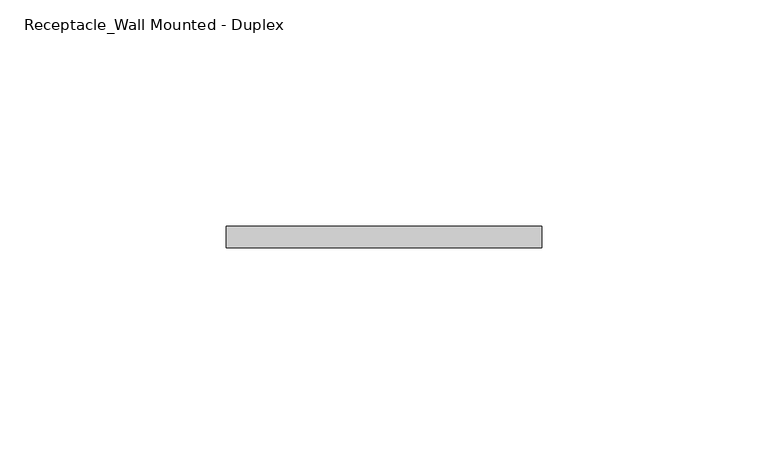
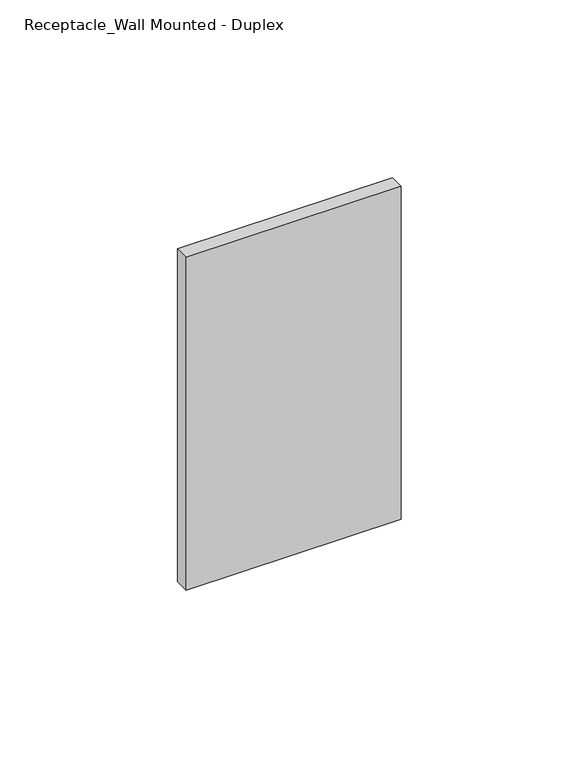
"""IFC4 building model written with IfcOpenShell, lengths in millimetres: proxy geometry, Receptacle_Wall Mounted - Duplex : Convenience."""

from ifc_helpers import new_model, si_unit, frame, origin, place, context, project, spatial, polyline, outline, extrude, source, transform, mapped, element, save


def receptacle_wall_mounted_duplex_e1195973(model_context):
    return source(origin(), model_context, "Body", "SweptSolid", [
        extrude(outline(polyline([(34.925, -47.625), (34.925, -52.3875), (-34.925, -52.3875), (-34.925, -47.625), (34.925, -47.625)])), frame((0.0, 0.0, 400.05), z_axis=(0.0, 0.0, 1.0), x_axis=(1.0, 0.0, 0.0)), (0.0, 0.0, 1.0), 114.3),
    ])


if __name__ == "__main__":
    model = new_model("IFC4")
    model_context = context("Model", 3, world=origin())
    ifc_project = project(units=[si_unit("LENGTHUNIT", "METRE", prefix="MILLI")], contexts=[model_context])
    site = spatial("IfcSite", under=ifc_project)
    building = spatial("IfcBuilding", under=site)
    placement = place(None, origin())
    receptacle_wall_mounted_duplex_shape = receptacle_wall_mounted_duplex_e1195973(model_context)
    element("IfcBuildingElementProxy", 1, Name="Receptacle_Wall Mounted - Duplex : Convenience", ObjectType="Receptacle_Wall Mounted - Duplex : Convenience", at=placement, inside=building, context=model_context, shape_type="MappedRepresentation", body=[
        mapped(receptacle_wall_mounted_duplex_shape, transform((0.0, 0.0, 0.0), x_axis=(1.0, 0.0, 0.0), y_axis=(0.0, 1.0, 0.0), z_axis=(0.0, 0.0, 1.0))),
    ])
    save(model, "model.ifc")
